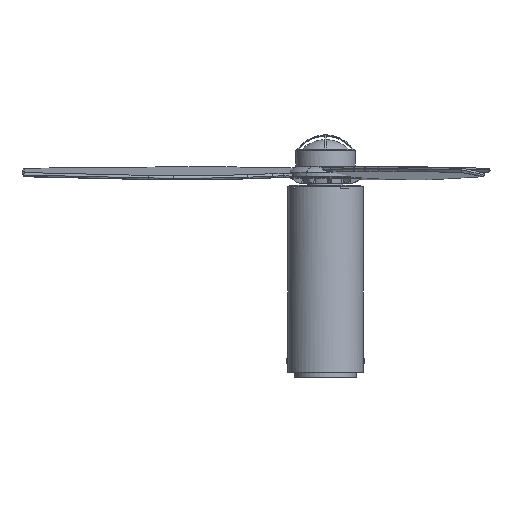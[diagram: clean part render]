
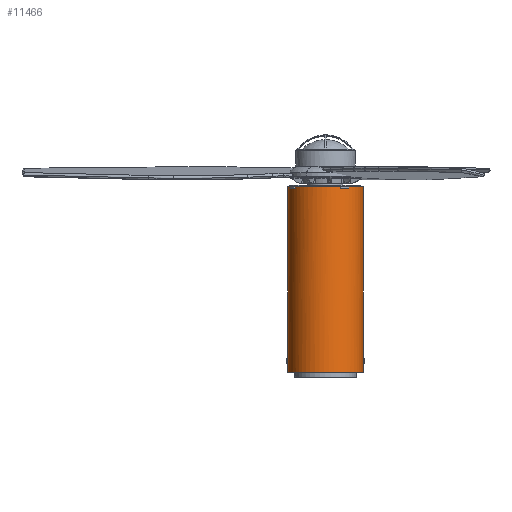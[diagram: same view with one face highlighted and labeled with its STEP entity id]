
A CAD part, left-side view. The second image highlights one B-rep face of the part: STEP entity #11466.
In plain terms, the highlighted cylindrical face has radius 80 mm (diameter 159.999 mm), a partial arc.
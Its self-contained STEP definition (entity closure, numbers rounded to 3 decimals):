
#1102=FACE_OUTER_BOUND('',#1863,.T.);
#1863=EDGE_LOOP('',(#9514,#9515,#9516,#9517));
#2543=B_SPLINE_CURVE_WITH_KNOTS('',3,(#22547,#22548,#22549,#22550,#22551,
#22552,#22553,#22554,#22555,#22556,#22557),.UNSPECIFIED.,.F.,.F.,(4,1,1,
1,1,1,1,1,4),(0.,0.125,0.25,0.375,0.5,0.625,0.75,0.875,1.),
 .UNSPECIFIED.);
#2590=B_SPLINE_CURVE_WITH_KNOTS('',3,(#23156,#23157,#23158,#23159,#23160,
#23161,#23162,#23163,#23164,#23165,#23166),.UNSPECIFIED.,.F.,.F.,(4,1,1,
1,1,1,1,1,4),(0.,0.125,0.25,0.375,0.5,0.625,0.75,0.875,1.),
 .UNSPECIFIED.);
#3711=LINE('',#23168,#4258);
#3712=LINE('',#23169,#4259);
#4258=VECTOR('',#14542,304.8);
#4259=VECTOR('',#14543,304.8);
#5099=VERTEX_POINT('',#22400);
#5100=VERTEX_POINT('',#22401);
#5145=VERTEX_POINT('',#23038);
#5146=VERTEX_POINT('',#23091);
#6602=EDGE_CURVE('',#5100,#5099,#2543,.T.);
#6655=EDGE_CURVE('',#5145,#5146,#2590,.T.);
#6656=EDGE_CURVE('',#5099,#5145,#3711,.T.);
#6657=EDGE_CURVE('',#5146,#5100,#3712,.T.);
#9514=ORIENTED_EDGE('',*,*,#6655,.T.);
#9515=ORIENTED_EDGE('',*,*,#6657,.T.);
#9516=ORIENTED_EDGE('',*,*,#6602,.T.);
#9517=ORIENTED_EDGE('',*,*,#6656,.T.);
#10939=CYLINDRICAL_SURFACE('',#12426,80.);
#11466=ADVANCED_FACE('',(#1102),#10939,.T.);
#12426=AXIS2_PLACEMENT_3D('',#23170,#14544,#14545);
#14542=DIRECTION('',(0.,0.,1.));
#14543=DIRECTION('',(0.,0.,-1.));
#14544=DIRECTION('center_axis',(0.,0.,1.));
#14545=DIRECTION('ref_axis',(0.,1.,0.));
#22400=CARTESIAN_POINT('',(0.,-80.,10.169));
#22401=CARTESIAN_POINT('',(0.,80.,10.169));
#22547=CARTESIAN_POINT('Ctrl Pts',(0.,80.,10.169));
#22548=CARTESIAN_POINT('Ctrl Pts',(-10.514,80.105,10.169));
#22549=CARTESIAN_POINT('Ctrl Pts',(-31.391,75.785,10.169));
#22550=CARTESIAN_POINT('Ctrl Pts',(-58.046,58.054,10.169));
#22551=CARTESIAN_POINT('Ctrl Pts',(-75.833,31.408,10.169));
#22552=CARTESIAN_POINT('Ctrl Pts',(-82.083,0.,
10.169));
#22553=CARTESIAN_POINT('Ctrl Pts',(-75.833,-31.408,
10.169));
#22554=CARTESIAN_POINT('Ctrl Pts',(-58.046,-58.054,
10.169));
#22555=CARTESIAN_POINT('Ctrl Pts',(-31.391,-75.785,
10.169));
#22556=CARTESIAN_POINT('Ctrl Pts',(-10.514,-80.105,10.169));
#22557=CARTESIAN_POINT('Ctrl Pts',(0.,-80.,
10.169));
#23038=CARTESIAN_POINT('',(0.,-80.,404.09));
#23091=CARTESIAN_POINT('',(0.,80.,404.09));
#23156=CARTESIAN_POINT('Ctrl Pts',(0.,-80.,
404.09));
#23157=CARTESIAN_POINT('Ctrl Pts',(-10.514,-80.105,
404.09));
#23158=CARTESIAN_POINT('Ctrl Pts',(-31.391,-75.785,
404.09));
#23159=CARTESIAN_POINT('Ctrl Pts',(-58.046,-58.054,
404.09));
#23160=CARTESIAN_POINT('Ctrl Pts',(-75.833,-31.408,
404.09));
#23161=CARTESIAN_POINT('Ctrl Pts',(-82.083,0.,
404.09));
#23162=CARTESIAN_POINT('Ctrl Pts',(-75.833,31.408,404.09));
#23163=CARTESIAN_POINT('Ctrl Pts',(-58.046,58.054,404.09));
#23164=CARTESIAN_POINT('Ctrl Pts',(-31.391,75.785,404.09));
#23165=CARTESIAN_POINT('Ctrl Pts',(-10.514,80.105,404.09));
#23166=CARTESIAN_POINT('Ctrl Pts',(0.,80.,
404.09));
#23168=CARTESIAN_POINT('',(0.,-80.,10.169));
#23169=CARTESIAN_POINT('',(0.,80.,404.09));
#23170=CARTESIAN_POINT('Origin',(0.,0.,1792.792));
